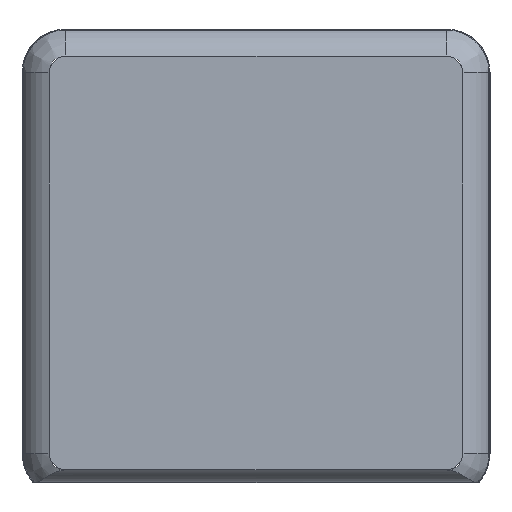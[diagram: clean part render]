
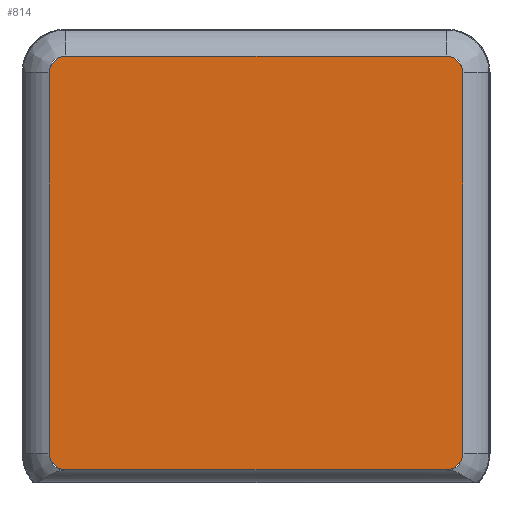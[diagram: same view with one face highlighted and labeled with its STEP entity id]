
A CAD part, front view. The second image highlights one B-rep face of the part: STEP entity #814.
In plain terms, the highlighted planar face has unit normal (0, -1, 0).
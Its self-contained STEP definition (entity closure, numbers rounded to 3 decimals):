
#72=CARTESIAN_POINT('',(29.05,-584.,-29.05));
#73=DIRECTION('',(0.,-1.,0.));
#74=DIRECTION('',(0.,0.,-1.));
#75=AXIS2_PLACEMENT_3D('',#72,#73,#74);
#97=DIRECTION('',(-1.,0.,0.));
#98=VECTOR('',#97,58.1);
#99=CARTESIAN_POINT('',(29.05,-584.,31.8));
#100=LINE('',#99,#98);
#158=CARTESIAN_POINT('',(-29.05,-584.,29.05));
#159=DIRECTION('',(0.,-1.,0.));
#160=DIRECTION('',(0.,0.,1.));
#161=AXIS2_PLACEMENT_3D('',#158,#159,#160);
#175=DIRECTION('',(0.,0.,-1.));
#176=VECTOR('',#175,58.1);
#177=CARTESIAN_POINT('',(-31.8,-584.,29.05));
#178=LINE('',#177,#176);
#187=CARTESIAN_POINT('',(-29.05,-584.,-29.05));
#188=DIRECTION('',(0.,-1.,0.));
#189=DIRECTION('',(-1.,0.,0.));
#190=AXIS2_PLACEMENT_3D('',#187,#188,#189);
#204=DIRECTION('',(1.,0.,0.));
#205=VECTOR('',#204,58.1);
#206=CARTESIAN_POINT('',(-29.05,-584.,-31.8));
#207=LINE('',#206,#205);
#411=DIRECTION('',(0.,0.,1.));
#412=VECTOR('',#411,58.1);
#413=CARTESIAN_POINT('',(31.8,-584.,-29.05));
#414=LINE('',#413,#412);
#423=CARTESIAN_POINT('',(29.05,-584.,29.05));
#424=DIRECTION('',(0.,-1.,0.));
#425=DIRECTION('',(1.,0.,0.));
#426=AXIS2_PLACEMENT_3D('',#423,#424,#425);
#756=CARTESIAN_POINT('',(29.05,-584.,-31.8));
#757=CARTESIAN_POINT('',(31.8,-584.,-29.05));
#758=VERTEX_POINT('',#756);
#759=VERTEX_POINT('',#757);
#760=CARTESIAN_POINT('',(31.8,-584.,29.05));
#761=VERTEX_POINT('',#760);
#762=CARTESIAN_POINT('',(29.05,-584.,31.8));
#763=VERTEX_POINT('',#762);
#764=CARTESIAN_POINT('',(-29.05,-584.,31.8));
#765=CARTESIAN_POINT('',(-31.8,-584.,29.05));
#766=VERTEX_POINT('',#764);
#767=VERTEX_POINT('',#765);
#768=CARTESIAN_POINT('',(-31.8,-584.,-29.05));
#769=VERTEX_POINT('',#768);
#770=CARTESIAN_POINT('',(-29.05,-584.,-31.8));
#771=VERTEX_POINT('',#770);
#792=CARTESIAN_POINT('',(0.,-584.,0.));
#793=DIRECTION('',(0.,1.,0.));
#794=DIRECTION('',(0.,0.,1.));
#795=AXIS2_PLACEMENT_3D('',#792,#793,#794);
#796=PLANE('',#795);
#798=ORIENTED_EDGE('',*,*,#797,.F.);
#800=ORIENTED_EDGE('',*,*,#799,.F.);
#802=ORIENTED_EDGE('',*,*,#801,.F.);
#803=ORIENTED_EDGE('',*,*,#777,.F.);
#805=ORIENTED_EDGE('',*,*,#804,.F.);
#807=ORIENTED_EDGE('',*,*,#806,.F.);
#809=ORIENTED_EDGE('',*,*,#808,.F.);
#811=ORIENTED_EDGE('',*,*,#810,.F.);
#812=EDGE_LOOP('',(#798,#800,#802,#803,#805,#807,#809,#811));
#813=FACE_OUTER_BOUND('',#812,.F.);
#76=CIRCLE('',#75,2.75);
#162=CIRCLE('',#161,2.75);
#191=CIRCLE('',#190,2.75);
#427=CIRCLE('',#426,2.75);
#777=EDGE_CURVE('',#758,#759,#76,.T.);
#797=EDGE_CURVE('',#763,#766,#100,.T.);
#799=EDGE_CURVE('',#761,#763,#427,.T.);
#801=EDGE_CURVE('',#759,#761,#414,.T.);
#804=EDGE_CURVE('',#771,#758,#207,.T.);
#806=EDGE_CURVE('',#769,#771,#191,.T.);
#808=EDGE_CURVE('',#767,#769,#178,.T.);
#810=EDGE_CURVE('',#766,#767,#162,.T.);
#814=ADVANCED_FACE('',(#813),#796,.F.);
